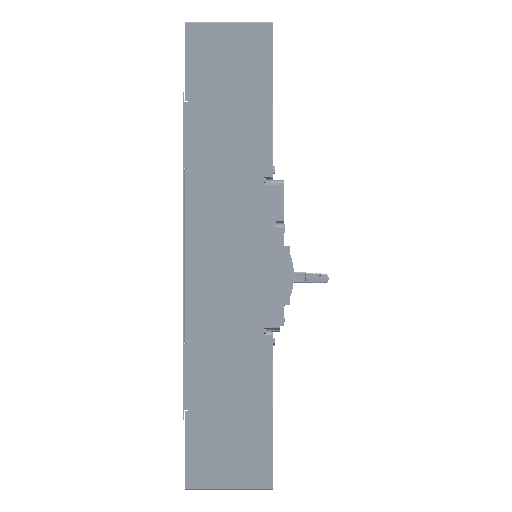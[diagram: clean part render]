
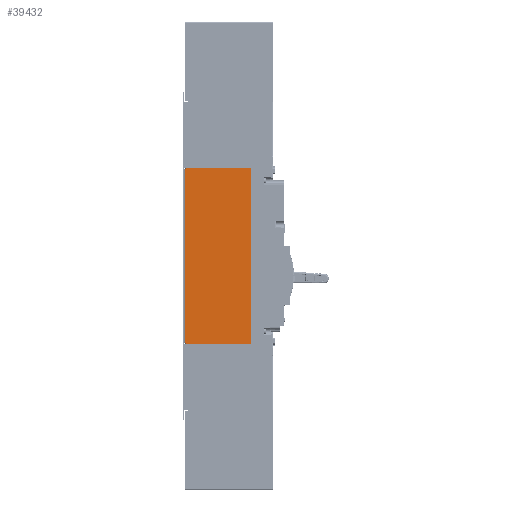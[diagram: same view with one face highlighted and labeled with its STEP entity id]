
A CAD part, left-side view. The second image highlights one B-rep face of the part: STEP entity #39432.
In plain terms, the highlighted planar face has unit normal (-1, 0, 0).
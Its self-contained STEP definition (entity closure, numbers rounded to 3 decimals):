
#1599=DIRECTION('',(0.,0.,-1.));
#1600=VECTOR('',#1599,224.6);
#1601=CARTESIAN_POINT('',(-70.,86.5,148.3));
#1602=LINE('',#1601,#1600);
#5025=DIRECTION('',(0.,1.,0.));
#5026=VECTOR('',#5025,85.);
#5027=CARTESIAN_POINT('',(-70.,0.,149.5));
#5028=LINE('',#5027,#5026);
#5044=DIRECTION('',(0.,0.,-1.));
#5045=VECTOR('',#5044,1.2);
#5046=CARTESIAN_POINT('',(-70.,85.,149.5));
#5047=LINE('',#5046,#5045);
#5059=DIRECTION('',(0.,0.,-1.));
#5060=VECTOR('',#5059,227.);
#5061=CARTESIAN_POINT('',(-70.,0.,149.5));
#5062=LINE('',#5061,#5060);
#5063=DIRECTION('',(0.,-1.,0.));
#5064=VECTOR('',#5063,85.);
#5065=CARTESIAN_POINT('',(-70.,85.,-77.5));
#5066=LINE('',#5065,#5064);
#5092=DIRECTION('',(0.,0.,-1.));
#5093=VECTOR('',#5092,1.2);
#5094=CARTESIAN_POINT('',(-70.,85.,-76.3));
#5095=LINE('',#5094,#5093);
#7862=DIRECTION('',(0.,-1.,0.));
#7863=VECTOR('',#7862,1.5);
#7864=CARTESIAN_POINT('',(-70.,86.5,
-76.3));
#7865=LINE('',#7864,#7863);
#21235=DIRECTION('',(0.,1.,0.));
#21236=VECTOR('',#21235,1.5);
#21237=CARTESIAN_POINT('',(-70.,85.,148.3));
#21238=LINE('',#21237,#21236);
#25871=CARTESIAN_POINT('',(-70.,0.,-77.5));
#25872=VERTEX_POINT('',#25871);
#25873=CARTESIAN_POINT('',(-70.,0.,149.5));
#25874=VERTEX_POINT('',#25873);
#25903=CARTESIAN_POINT('',(-70.,85.,149.5));
#25904=VERTEX_POINT('',#25903);
#25907=CARTESIAN_POINT('',(-70.,85.,148.3));
#25908=VERTEX_POINT('',#25907);
#25912=CARTESIAN_POINT('',(-70.,85.,-77.5));
#25913=VERTEX_POINT('',#25912);
#25914=CARTESIAN_POINT('',(-70.,85.,-76.3));
#25915=VERTEX_POINT('',#25914);
#25916=CARTESIAN_POINT('',(-70.,86.5,
-76.3));
#25917=VERTEX_POINT('',#25916);
#25918=CARTESIAN_POINT('',(-70.,86.5,
148.3));
#25919=VERTEX_POINT('',#25918);
#39413=CARTESIAN_POINT('',(-70.,0.,-91.5));
#39414=DIRECTION('',(-1.,0.,0.));
#39415=DIRECTION('',(0.,0.,-1.));
#39416=AXIS2_PLACEMENT_3D('',#39413,#39414,#39415);
#39417=PLANE('',#39416);
#39419=ORIENTED_EDGE('',*,*,#39418,.F.);
#39421=ORIENTED_EDGE('',*,*,#39420,.F.);
#39423=ORIENTED_EDGE('',*,*,#39422,.F.);
#39424=ORIENTED_EDGE('',*,*,#34798,.F.);
#39426=ORIENTED_EDGE('',*,*,#39425,.F.);
#39427=ORIENTED_EDGE('',*,*,#39397,.F.);
#39428=ORIENTED_EDGE('',*,*,#39359,.F.);
#39429=ORIENTED_EDGE('',*,*,#39266,.T.);
#39430=EDGE_LOOP('',(#39419,#39421,#39423,#39424,#39426,#39427,#39428,#39429));
#39431=FACE_OUTER_BOUND('',#39430,.F.);
#39432=ADVANCED_FACE('',(#39431),#39417,.T.);
#34798=EDGE_CURVE('',#25919,#25917,#1602,.T.);
#39266=EDGE_CURVE('',#25874,#25872,#5062,.T.);
#39359=EDGE_CURVE('',#25874,#25904,#5028,.T.);
#39397=EDGE_CURVE('',#25904,#25908,#5047,.T.);
#39418=EDGE_CURVE('',#25913,#25872,#5066,.T.);
#39420=EDGE_CURVE('',#25915,#25913,#5095,.T.);
#39422=EDGE_CURVE('',#25917,#25915,#7865,.T.);
#39425=EDGE_CURVE('',#25908,#25919,#21238,.T.);
